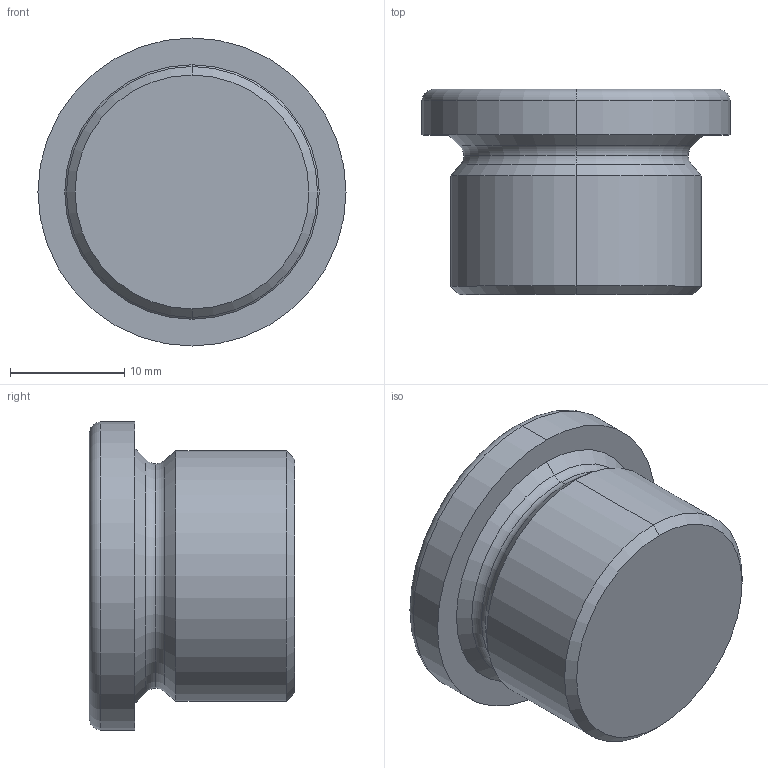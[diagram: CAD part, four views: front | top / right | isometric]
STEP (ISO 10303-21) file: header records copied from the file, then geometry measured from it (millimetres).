
FILE_DESCRIPTION (( 'STEP AP214' ), '1' );
FILE_NAME ('908-A4-M22x1,5-A.step', '2024-12-19T09:18:22', ( '' ), ( '' ), 'SwSTEP 2.0', 'SolidWorks 2022', '' );
FILE_SCHEMA (( 'AUTOMOTIVE_DESIGN' ));
Length unit declared in the file: millimetre
Products named in the file (1): 908-A4-M22x1,5-A
Bounding box: 27 x 18 x 27 mm (x, y, z)
Volume: 6762.9 mm3; surface area: 2675.6 mm2
Topology: 1 solids, 1 shells, 26 faces, 54 edges, 32 vertices
Faces by surface type: plane 10, torus 6, cone 6, cylinder 4
Entity records: 744 total; most frequent: DIRECTION 134, CARTESIAN_POINT 113, ORIENTED_EDGE 108, EDGE_CURVE 54, AXIS2_PLACEMENT_3D 53, VERTEX_POINT 32, VECTOR 28, LINE 28
